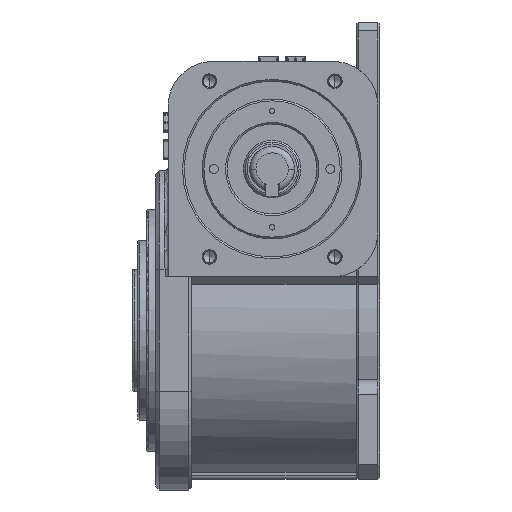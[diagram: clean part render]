
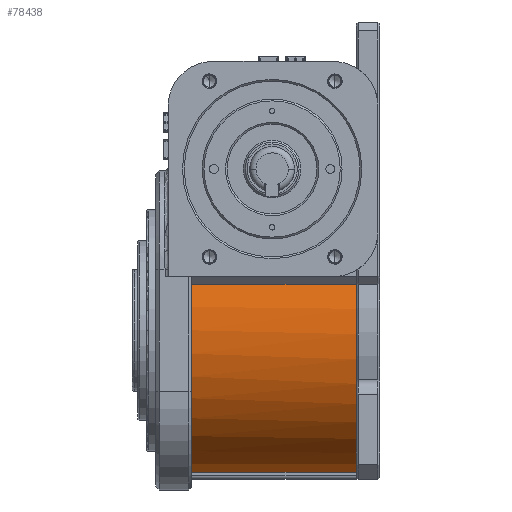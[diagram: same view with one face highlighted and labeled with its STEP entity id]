
A CAD part, left-side view. The second image highlights one B-rep face of the part: STEP entity #78438.
In plain terms, the highlighted cylindrical face has radius 83 mm (diameter 166 mm), a partial arc.
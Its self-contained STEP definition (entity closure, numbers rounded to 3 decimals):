
#1539 = ORIENTED_EDGE ( 'NONE', *, *, #67925, .F. ) ;
#3660 = CIRCLE ( 'NONE', #59303, 83. ) ;
#4173 = CARTESIAN_POINT ( 'NONE',  ( -25., 105., -79.145 ) ) ;
#4190 = EDGE_CURVE ( 'NONE', #112704, #41596, #20535, .T. ) ;
#6087 = CARTESIAN_POINT ( 'NONE',  ( 0., 13., 0. ) ) ;
#6461 = LINE ( 'NONE', #96548, #82759 ) ;
#13724 = DIRECTION ( 'NONE',  ( 0., 1., 0. ) ) ;
#15655 = DIRECTION ( 'NONE',  ( 0., 0., -1. ) ) ;
#16266 = ORIENTED_EDGE ( 'NONE', *, *, #77661, .F. ) ;
#20535 = CIRCLE ( 'NONE', #64126, 83. ) ;
#20645 = EDGE_CURVE ( 'NONE', #107312, #108240, #44214, .T. ) ;
#25064 = DIRECTION ( 'NONE',  ( 0., -1., 0. ) ) ;
#33743 = CARTESIAN_POINT ( 'NONE',  ( -78.866, 13., 25.866 ) ) ;
#34213 = CARTESIAN_POINT ( 'NONE',  ( -25., 13., -79.145 ) ) ;
#34707 = DIRECTION ( 'NONE',  ( 0., 0., -1. ) ) ;
#36105 = CARTESIAN_POINT ( 'NONE',  ( 0., 13., 0. ) ) ;
#37862 = CARTESIAN_POINT ( 'NONE',  ( 0., 105., 0. ) ) ;
#38181 = CARTESIAN_POINT ( 'NONE',  ( -77.457, 13., -29.823 ) ) ;
#41596 = VERTEX_POINT ( 'NONE', #34213 ) ;
#41825 = CIRCLE ( 'NONE', #59674, 83. ) ;
#43937 = CYLINDRICAL_SURFACE ( 'NONE', #48135, 83. ) ;
#44214 = LINE ( 'NONE', #90174, #66687 ) ;
#45163 = EDGE_LOOP ( 'NONE', ( #1539, #114546, #16266, #88448, #60293 ) ) ;
#45753 = DIRECTION ( 'NONE',  ( 0., 0., -1. ) ) ;
#47497 = DIRECTION ( 'NONE',  ( 0., 0., -1. ) ) ;
#48135 = AXIS2_PLACEMENT_3D ( 'NONE', #82394, #25064, #34707 ) ;
#59303 = AXIS2_PLACEMENT_3D ( 'NONE', #37862, #104713, #47497 ) ;
#59674 = AXIS2_PLACEMENT_3D ( 'NONE', #6087, #72969, #15655 ) ;
#59894 = VERTEX_POINT ( 'NONE', #4173 ) ;
#60293 = ORIENTED_EDGE ( 'NONE', *, *, #4190, .F. ) ;
#61317 = CARTESIAN_POINT ( 'NONE',  ( -78.866, 105., 25.866 ) ) ;
#64126 = AXIS2_PLACEMENT_3D ( 'NONE', #36105, #102998, #45753 ) ;
#66687 = VECTOR ( 'NONE', #13724, 1000. ) ;
#67925 = EDGE_CURVE ( 'NONE', #107312, #112704, #41825, .T. ) ;
#72969 = DIRECTION ( 'NONE',  ( 0., -1., 0. ) ) ;
#75347 = DIRECTION ( 'NONE',  ( 0., -1., 0. ) ) ;
#77661 = EDGE_CURVE ( 'NONE', #59894, #108240, #3660, .T. ) ;
#78438 = ADVANCED_FACE ( 'NONE', ( #120235 ), #43937, .T. ) ;
#82394 = CARTESIAN_POINT ( 'NONE',  ( 0., 105., 0. ) ) ;
#82759 = VECTOR ( 'NONE', #75347, 1000. ) ;
#88448 = ORIENTED_EDGE ( 'NONE', *, *, #110595, .T. ) ;
#90174 = CARTESIAN_POINT ( 'NONE',  ( -78.866, 105., 25.866 ) ) ;
#96548 = CARTESIAN_POINT ( 'NONE',  ( -25., 105., -79.145 ) ) ;
#102998 = DIRECTION ( 'NONE',  ( 0., -1., 0. ) ) ;
#104713 = DIRECTION ( 'NONE',  ( 0., 1., 0. ) ) ;
#107312 = VERTEX_POINT ( 'NONE', #33743 ) ;
#108240 = VERTEX_POINT ( 'NONE', #61317 ) ;
#110595 = EDGE_CURVE ( 'NONE', #59894, #41596, #6461, .T. ) ;
#112704 = VERTEX_POINT ( 'NONE', #38181 ) ;
#114546 = ORIENTED_EDGE ( 'NONE', *, *, #20645, .T. ) ;
#120235 = FACE_OUTER_BOUND ( 'NONE', #45163, .T. ) ;
